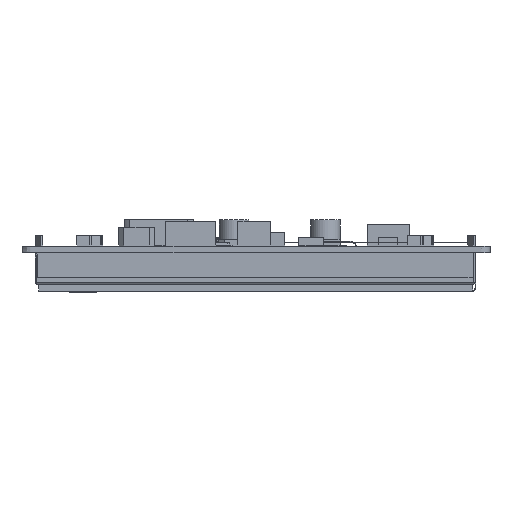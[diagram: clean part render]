
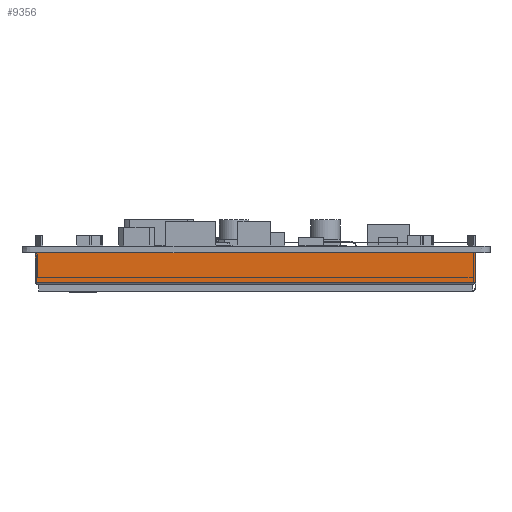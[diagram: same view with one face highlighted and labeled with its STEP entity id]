
A CAD part, left-side view. The second image highlights one B-rep face of the part: STEP entity #9356.
In plain terms, the highlighted planar face has unit normal (-1, 0, 0).
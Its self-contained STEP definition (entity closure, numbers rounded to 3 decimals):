
#3922=PLANE('',#58909);
#6620=FACE_OUTER_BOUND('',#12823,.T.);
#9356=ADVANCED_FACE('',(#6620),#3922,.F.);
#12823=EDGE_LOOP('',(#27492,#27493,#27494,#27495));
#27492=ORIENTED_EDGE('',*,*,#40465,.F.);
#27493=ORIENTED_EDGE('',*,*,#40466,.T.);
#27494=ORIENTED_EDGE('',*,*,#40467,.T.);
#27495=ORIENTED_EDGE('',*,*,#40468,.T.);
#32975=VERTEX_POINT('',#88355);
#32976=VERTEX_POINT('',#88356);
#32977=VERTEX_POINT('',#88358);
#32978=VERTEX_POINT('',#88360);
#40465=EDGE_CURVE('',#32975,#32976,#48156,.T.);
#40466=EDGE_CURVE('',#32975,#32977,#48157,.T.);
#40467=EDGE_CURVE('',#32977,#32978,#48158,.T.);
#40468=EDGE_CURVE('',#32978,#32976,#48159,.T.);
#48156=LINE('',#88354,#54819);
#48157=LINE('',#88357,#54820);
#48158=LINE('',#88359,#54821);
#48159=LINE('',#88361,#54822);
#54819=VECTOR('',#72195,1.);
#54820=VECTOR('',#72196,1.);
#54821=VECTOR('',#72197,1.);
#54822=VECTOR('',#72198,1.);
#58909=AXIS2_PLACEMENT_3D('',#88362,#72199,#72200);
#72195=DIRECTION('',(0.,0.,1.));
#72196=DIRECTION('',(0.,-1.,0.));
#72197=DIRECTION('',(0.,0.,1.));
#72198=DIRECTION('',(0.,1.,0.));
#72199=DIRECTION('',(1.,0.,0.));
#72200=DIRECTION('',(0.,0.,1.));
#88354=CARTESIAN_POINT('',(173.525,30.57,-8.8));
#88355=CARTESIAN_POINT('',(173.525,30.57,-8.3));
#88356=CARTESIAN_POINT('',(173.525,30.57,-1.6));
#88357=CARTESIAN_POINT('',(173.525,-70.43,-8.3));
#88358=CARTESIAN_POINT('',(173.525,-70.43,-8.3));
#88359=CARTESIAN_POINT('',(173.525,-70.43,-8.8));
#88360=CARTESIAN_POINT('',(173.525,-70.43,-1.6));
#88361=CARTESIAN_POINT('',(173.525,-70.43,-1.6));
#88362=CARTESIAN_POINT('',(173.525,-70.43,-8.8));
